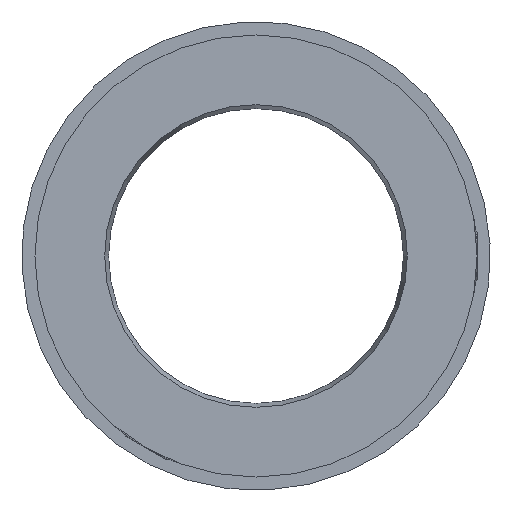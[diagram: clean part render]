
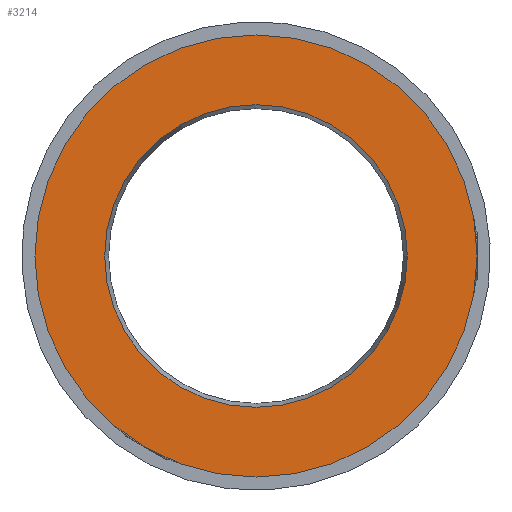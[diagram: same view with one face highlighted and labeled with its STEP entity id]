
A CAD part, left-side view. The second image highlights one B-rep face of the part: STEP entity #3214.
In plain terms, the highlighted planar face has unit normal (-1, 0, 0).
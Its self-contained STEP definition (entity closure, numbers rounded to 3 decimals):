
#563=CARTESIAN_POINT('',(0.0,15.0,0.0));
#564=VERTEX_POINT('',#563);
#565=CARTESIAN_POINT('',(0.0,0.0,0.0));
#566=DIRECTION('',(1.0,0.0,0.0));
#567=DIRECTION('',(0.0,1.0,0.0));
#568=AXIS2_PLACEMENT_3D('',#565,#566,#567);
#569=CIRCLE('',#568,15.0);
#570=EDGE_CURVE('',#564,#564,#569,.T.);
#3195=CARTESIAN_POINT('',(0.,12.5,0.0));
#3196=DIRECTION('',(-1.0,0.0,0.0));
#3197=DIRECTION('',(0.0,0.0,1.0));
#3198=AXIS2_PLACEMENT_3D('',#3195,#3196,#3197);
#3199=PLANE('',#3198);
#3200=ORIENTED_EDGE('',*,*,#570,.F.);
#3201=EDGE_LOOP('',(#3200));
#3202=FACE_OUTER_BOUND('',#3201,.T.);
#3203=CARTESIAN_POINT('',(0.,10.268,0.));
#3204=VERTEX_POINT('',#3203);
#3205=CARTESIAN_POINT('',(0.,0.0,0.0));
#3206=DIRECTION('',(-1.0,0.0,0.0));
#3207=DIRECTION('',(0.0,-1.0,0.0));
#3208=AXIS2_PLACEMENT_3D('',#3205,#3206,#3207);
#3209=CIRCLE('',#3208,10.268);
#3210=EDGE_CURVE('',#3204,#3204,#3209,.T.);
#3211=ORIENTED_EDGE('',*,*,#3210,.F.);
#3212=EDGE_LOOP('',(#3211));
#3213=FACE_BOUND('',#3212,.T.);
#3214=ADVANCED_FACE('',(#3202,#3213),#3199,.T.);
